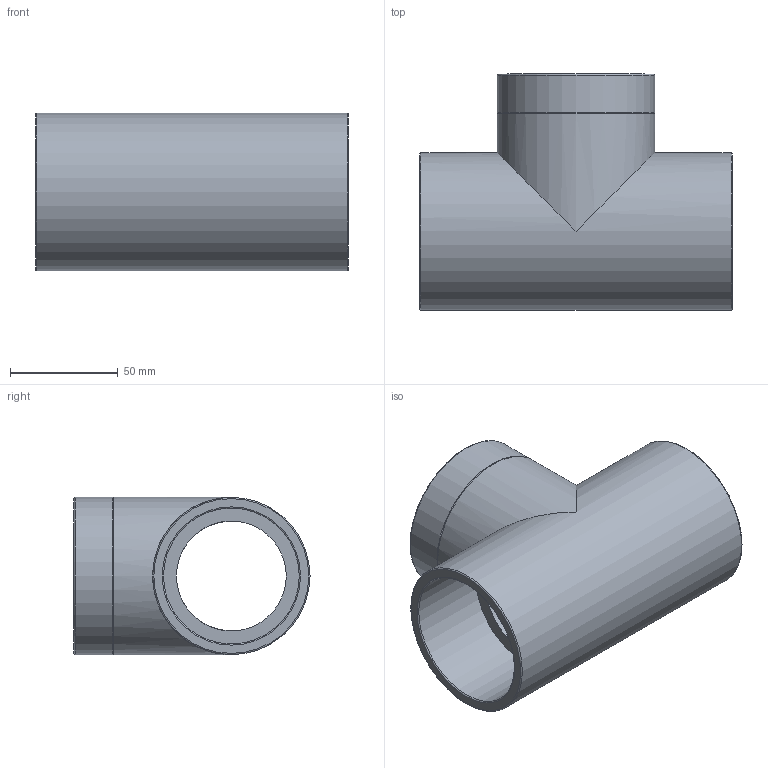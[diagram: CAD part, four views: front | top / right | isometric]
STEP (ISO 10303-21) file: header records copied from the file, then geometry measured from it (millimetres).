
FILE_DESCRIPTION(/* description */ ('PLASSON NOT ACTIVE- TEE THR-CEM REINF. P 63-2"'),/* implementation_level */ '2;1');
FILE_NAME(/* name */ 'C:\Dropbox\KIMPROJECTS-Inventor\99-16-3568-Processing\PVC Catalog 2017\26_09_18\057402\057402063020.ipt.stp',/* time_stamp */ '2018-09-27T11:51:25+03:00',/* author */ ('KIM'),/* organization */ (''),/* preprocessor_version */ 'ST-DEVELOPER v15.6',/* originating_system */ 'Autodesk Inventor 2015',/* authorisation */ '');
FILE_SCHEMA (('AUTOMOTIVE_DESIGN { 1 0 10303 214 3 1 1 }'));
Length unit declared in the file: millimetre
Products named in the file (1): 057402063020
Bounding box: 145 x 109.5 x 73 mm (x, y, z)
Volume: 287494.9 mm3; surface area: 78695.4 mm2
Topology: 1 solids, 1 shells, 21 faces, 45 edges, 28 vertices
Faces by surface type: cylinder 8, plane 6, torus 5, cone 2
Full cylindrical faces by diameter (mm): 50.99 x2, 56.656 x1, 63 x2, 73 x3
Entity records: 486 total; most frequent: DIRECTION 92, CARTESIAN_POINT 70, ORIENTED_EDGE 48, AXIS2_PLACEMENT_3D 46, EDGE_LOOP 44, VERTEX_POINT 24, EDGE_CURVE 24, FACE_BOUND 23
